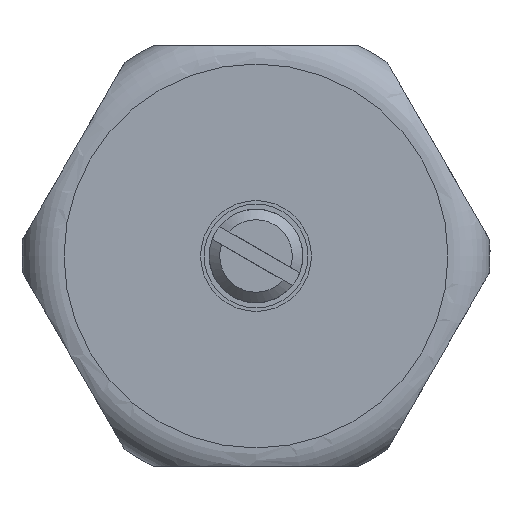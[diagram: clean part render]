
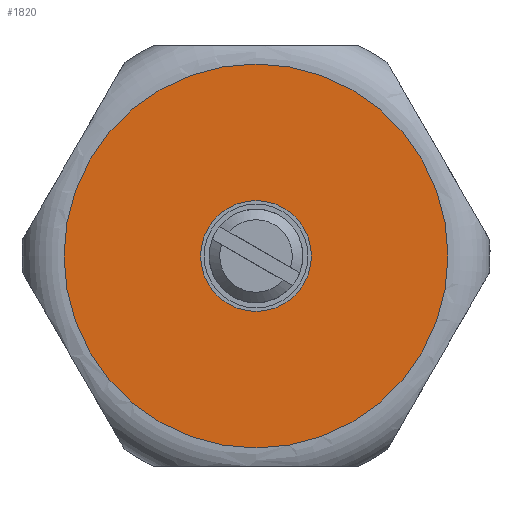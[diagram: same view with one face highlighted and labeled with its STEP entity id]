
A CAD part, left-side view. The second image highlights one B-rep face of the part: STEP entity #1820.
In plain terms, the highlighted planar face has unit normal (-1, 0, 0).
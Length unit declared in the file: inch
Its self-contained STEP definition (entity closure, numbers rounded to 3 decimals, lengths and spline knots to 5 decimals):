
#58=FACE_BOUND('',#413,.T.);
#153=CIRCLE('',#1960,0.14764);
#154=CIRCLE('',#1961,0.14764);
#180=CIRCLE('',#2005,0.51181);
#181=CIRCLE('',#2006,0.51181);
#308=FACE_OUTER_BOUND('',#412,.T.);
#412=EDGE_LOOP('',(#1337,#1338));
#413=EDGE_LOOP('',(#1339,#1340));
#701=VERTEX_POINT('',#2848);
#702=VERTEX_POINT('',#2849);
#741=VERTEX_POINT('',#3109);
#742=VERTEX_POINT('',#3110);
#905=EDGE_CURVE('',#701,#702,#153,.T.);
#906=EDGE_CURVE('',#702,#701,#154,.T.);
#962=EDGE_CURVE('',#741,#742,#180,.T.);
#963=EDGE_CURVE('',#742,#741,#181,.T.);
#1337=ORIENTED_EDGE('',*,*,#962,.F.);
#1338=ORIENTED_EDGE('',*,*,#963,.F.);
#1339=ORIENTED_EDGE('',*,*,#905,.T.);
#1340=ORIENTED_EDGE('',*,*,#906,.T.);
#1662=PLANE('',#2004);
#1820=ADVANCED_FACE('',(#308,#58),#1662,.T.);
#1960=AXIS2_PLACEMENT_3D('',#2850,#2281,#2282);
#1961=AXIS2_PLACEMENT_3D('',#2851,#2283,#2284);
#2004=AXIS2_PLACEMENT_3D('',#3108,#2385,#2386);
#2005=AXIS2_PLACEMENT_3D('',#3111,#2387,#2388);
#2006=AXIS2_PLACEMENT_3D('',#3112,#2389,#2390);
#2281=DIRECTION('center_axis',(1.,0.,0.));
#2282=DIRECTION('ref_axis',(0.,-0.866,0.5));
#2283=DIRECTION('center_axis',(1.,0.,0.));
#2284=DIRECTION('ref_axis',(0.,-0.866,0.5));
#2385=DIRECTION('center_axis',(-1.,0.,0.));
#2386=DIRECTION('ref_axis',(0.,-0.866,0.5));
#2387=DIRECTION('center_axis',(1.,0.,0.));
#2388=DIRECTION('ref_axis',(0.,0.866,-0.5));
#2389=DIRECTION('center_axis',(1.,0.,0.));
#2390=DIRECTION('ref_axis',(0.,0.866,-0.5));
#2848=CARTESIAN_POINT('',(-2.66747,-0.02656,-0.27052));
#2849=CARTESIAN_POINT('',(-2.66747,0.22916,-0.41816));
#2850=CARTESIAN_POINT('Origin',(-2.66747,0.1013,-0.34434));
#2851=CARTESIAN_POINT('Origin',(-2.66747,0.1013,-0.34434));
#3108=CARTESIAN_POINT('Origin',(-2.66747,0.54454,-0.60025));
#3109=CARTESIAN_POINT('',(-2.66747,0.54454,-0.60025));
#3110=CARTESIAN_POINT('',(-2.66747,-0.34194,-0.08844));
#3111=CARTESIAN_POINT('Origin',(-2.66747,0.1013,-0.34434));
#3112=CARTESIAN_POINT('Origin',(-2.66747,0.1013,-0.34434));
